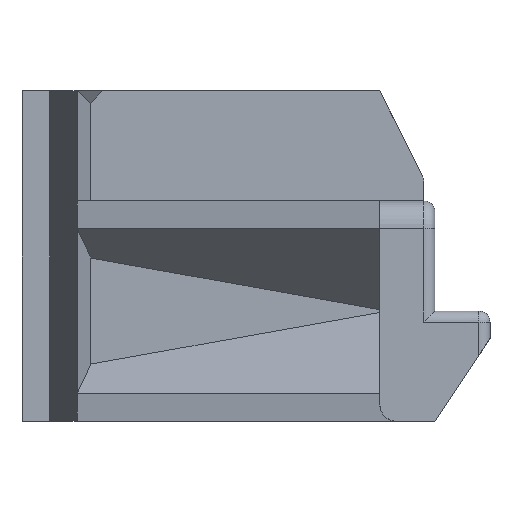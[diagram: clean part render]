
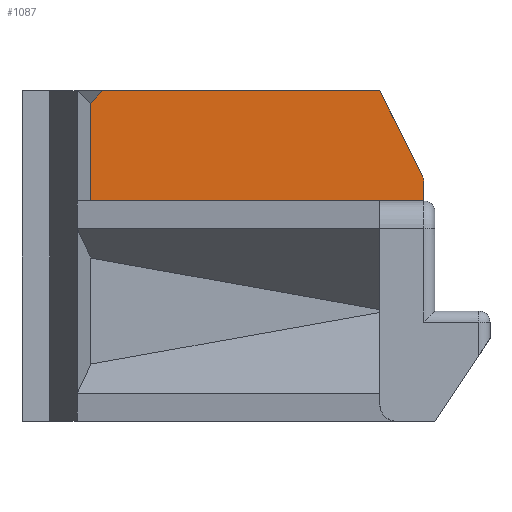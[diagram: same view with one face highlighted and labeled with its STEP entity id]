
A CAD part, front view. The second image highlights one B-rep face of the part: STEP entity #1087.
In plain terms, the highlighted planar face has unit normal (0, -1, 0).
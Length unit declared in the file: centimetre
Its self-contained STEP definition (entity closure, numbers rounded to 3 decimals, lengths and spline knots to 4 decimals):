
#30=PLANE($,#1173);
#92=FACE_OUTER_BOUND($,#156,.T.);
#156=EDGE_LOOP($,(#848,#849,#850,#851,#852,#853,#854));
#208=LINE($,#1550,#345);
#229=LINE($,#1623,#366);
#243=LINE($,#1653,#380);
#244=LINE($,#1655,#381);
#245=LINE($,#1657,#382);
#246=LINE($,#1658,#383);
#345=VECTOR($,#1239,0.3528);
#366=VECTOR($,#1322,6.05);
#380=VECTOR($,#1346,1.7416);
#381=VECTOR($,#1347,5.0455);
#382=VECTOR($,#1348,0.3041);
#383=VECTOR($,#1349,1.775);
#473=CIRCLE($,#1134,0.2);
#490=VERTEX_POINT($,#1525);
#491=VERTEX_POINT($,#1527);
#500=VERTEX_POINT($,#1549);
#521=VERTEX_POINT($,#1622);
#532=VERTEX_POINT($,#1652);
#533=VERTEX_POINT($,#1654);
#534=VERTEX_POINT($,#1656);
#587=EDGE_CURVE($,#490,#491,#473,.T.);
#598=EDGE_CURVE($,#500,#491,#208,.T.);
#635=EDGE_CURVE($,#521,#500,#229,.T.);
#650=EDGE_CURVE($,#532,#490,#243,.T.);
#651=EDGE_CURVE($,#533,#532,#244,.T.);
#652=EDGE_CURVE($,#533,#534,#245,.T.);
#653=EDGE_CURVE($,#534,#521,#246,.T.);
#848=ORIENTED_EDGE($,*,*,#587,.F.);
#849=ORIENTED_EDGE($,*,*,#650,.F.);
#850=ORIENTED_EDGE($,*,*,#651,.F.);
#851=ORIENTED_EDGE($,*,*,#652,.T.);
#852=ORIENTED_EDGE($,*,*,#653,.T.);
#853=ORIENTED_EDGE($,*,*,#635,.T.);
#854=ORIENTED_EDGE($,*,*,#598,.T.);
#1087=ADVANCED_FACE($,(#92),#30,.T.);
#1134=AXIS2_PLACEMENT_3D($,#1528,#1222,#1223);
#1173=AXIS2_PLACEMENT_3D($,#1651,#1344,#1345);
#1222=DIRECTION('center_axis',(0.,1.,0.));
#1223=DIRECTION('ref_axis',(0.973,0.,0.23));
#1239=DIRECTION($,(0.,0.,1.));
#1322=DIRECTION($,(1.,0.,0.));
#1344=DIRECTION('center_axis',(0.,-1.,0.));
#1345=DIRECTION('ref_axis',(0.,0.,1.));
#1346=DIRECTION($,(0.447,0.,-0.894));
#1347=DIRECTION($,(1.,0.,0.));
#1348=DIRECTION($,(-0.673,0.,-0.74));
#1349=DIRECTION($,(0.,0.,-1.));
#1525=CARTESIAN_POINT('',(-7.4711,11.5,4.4422));
#1527=CARTESIAN_POINT('',(-7.45,11.5,4.3528));
#1528=CARTESIAN_POINT('Origin',(-7.65,11.5,4.3528));
#1549=CARTESIAN_POINT('',(-7.45,11.5,4.));
#1550=CARTESIAN_POINT($,(-7.45,11.5,5.625));
#1622=CARTESIAN_POINT('',(-13.5,11.5,4.));
#1623=CARTESIAN_POINT($,(-7.25,11.5,4.));
#1651=CARTESIAN_POINT('Origin',(-7.25,11.5,2.5));
#1652=CARTESIAN_POINT('',(-8.25,11.5,6.));
#1653=CARTESIAN_POINT($,(-7.2919,11.5,4.0838));
#1654=CARTESIAN_POINT('',(-13.2955,11.5,6.));
#1655=CARTESIAN_POINT($,(-13.25,11.5,6.));
#1656=CARTESIAN_POINT('',(-13.5,11.5,5.775));
#1657=CARTESIAN_POINT($,(-12.957,11.5,6.3723));
#1658=CARTESIAN_POINT($,(-13.5,11.5,4.375));
